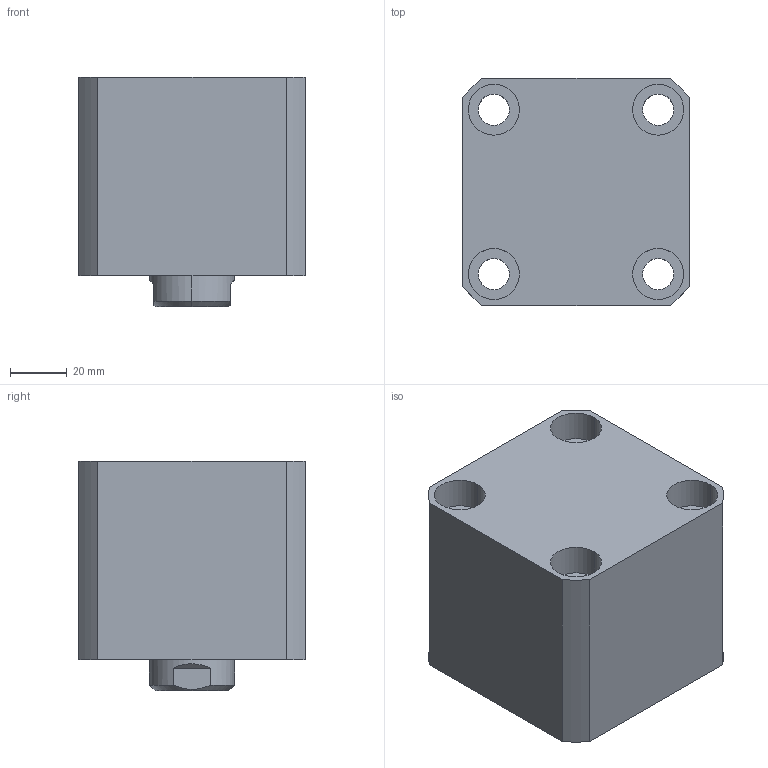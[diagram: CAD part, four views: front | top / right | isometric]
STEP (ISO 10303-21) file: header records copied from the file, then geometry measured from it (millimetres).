
FILE_DESCRIPTION (( 'STEP AP203' ), '1' );
FILE_NAME ('CHTB-SDMA50-10N.STEP', '2018-05-19T01:17:23', ( '' ), ( '' ), 'SwSTEP 2.0', 'SolidWorks 2015', '' );
FILE_SCHEMA (( 'CONFIG_CONTROL_DESIGN' ));
Length unit declared in the file: millimetre
Products named in the file (5): CHTB-SDMA50-10N; CHTM-SDMA50QG; M6; 活塞杆SDMA50-10N; 掛极SDMA50-10N
Assembly tree (5 placements, depth 2):
  CHTB-SDMA50-10N
    掛极SDMA50-10N
    CHTM-SDMA50QG
    活塞杆SDMA50-10N
    M6  x2
Bounding box: 80 x 80 x 81 mm (x, y, z)
Volume: 381979.5 mm3; surface area: 86438.9 mm2
Topology: 5 solids, 5 shells, 270 faces, 703 edges, 464 vertices
Faces by surface type: cylinder 139, plane 58, cone 31, bspline 26, torus 16
Entity records: 14133 total; most frequent: CARTESIAN_POINT 8131, ORIENTED_EDGE 1208, DIRECTION 1054, EDGE_CURVE 604, AXIS2_PLACEMENT_3D 433, VERTEX_POINT 403, EDGE_LOOP 277, FACE_OUTER_BOUND 235
